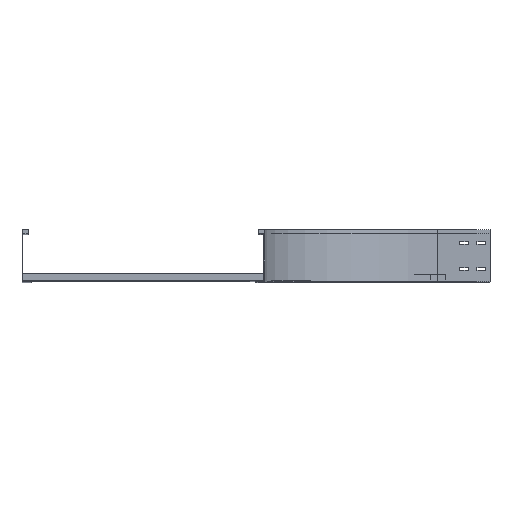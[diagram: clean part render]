
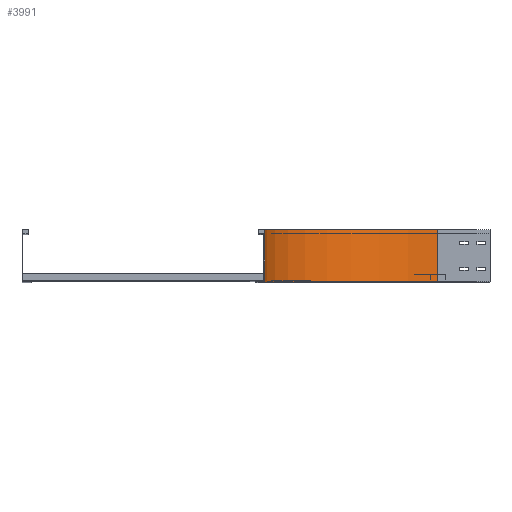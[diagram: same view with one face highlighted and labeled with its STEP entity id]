
A CAD part, top view. The second image highlights one B-rep face of the part: STEP entity #3991.
In plain terms, the highlighted cylindrical face has radius 500 mm (diameter 1000 mm), a partial arc.
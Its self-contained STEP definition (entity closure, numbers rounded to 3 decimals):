
#43 = AXIS2_PLACEMENT_3D ( 'NONE', #3118, #422, #3637 ) ;
#50 = CARTESIAN_POINT ( 'NONE',  ( 500., 0., -150. ) ) ;
#376 = CYLINDRICAL_SURFACE ( 'NONE', #1802, 500. ) ;
#422 = DIRECTION ( 'NONE',  ( 0., -1., 0. ) ) ;
#682 = VECTOR ( 'NONE', #3684, 1000. ) ;
#710 = EDGE_LOOP ( 'NONE', ( #3591, #1821, #894, #3322 ) ) ;
#760 = CARTESIAN_POINT ( 'NONE',  ( 500., 0., -650. ) ) ;
#894 = ORIENTED_EDGE ( 'NONE', *, *, #3331, .T. ) ;
#947 = VERTEX_POINT ( 'NONE', #760 ) ;
#1067 = FACE_OUTER_BOUND ( 'NONE', #710, .T. ) ;
#1183 = AXIS2_PLACEMENT_3D ( 'NONE', #4152, #2855, #1512 ) ;
#1364 = CARTESIAN_POINT ( 'NONE',  ( 0., 0., -150. ) ) ;
#1388 = LINE ( 'NONE', #1364, #682 ) ;
#1512 = DIRECTION ( 'NONE',  ( -1., 0., 0. ) ) ;
#1750 = CARTESIAN_POINT ( 'NONE',  ( 0., 150., -150. ) ) ;
#1802 = AXIS2_PLACEMENT_3D ( 'NONE', #50, #3002, #2365 ) ;
#1821 = ORIENTED_EDGE ( 'NONE', *, *, #4013, .F. ) ;
#1858 = VERTEX_POINT ( 'NONE', #3763 ) ;
#2145 = VERTEX_POINT ( 'NONE', #1750 ) ;
#2287 = CIRCLE ( 'NONE', #1183, 500. ) ;
#2365 = DIRECTION ( 'NONE',  ( 0., 0., -1. ) ) ;
#2521 = EDGE_CURVE ( 'NONE', #2145, #1858, #4274, .T. ) ;
#2544 = DIRECTION ( 'NONE',  ( 0., 1., 0. ) ) ;
#2566 = LINE ( 'NONE', #2846, #3371 ) ;
#2717 = EDGE_CURVE ( 'NONE', #947, #1858, #2566, .T. ) ;
#2846 = CARTESIAN_POINT ( 'NONE',  ( 500., 0., -650. ) ) ;
#2855 = DIRECTION ( 'NONE',  ( 0., -1., 0. ) ) ;
#3002 = DIRECTION ( 'NONE',  ( 0., -1., 0. ) ) ;
#3037 = CARTESIAN_POINT ( 'NONE',  ( 0., 0., -150. ) ) ;
#3118 = CARTESIAN_POINT ( 'NONE',  ( 500., 150., -150. ) ) ;
#3255 = VERTEX_POINT ( 'NONE', #3037 ) ;
#3322 = ORIENTED_EDGE ( 'NONE', *, *, #2717, .T. ) ;
#3331 = EDGE_CURVE ( 'NONE', #3255, #947, #2287, .T. ) ;
#3371 = VECTOR ( 'NONE', #2544, 1000. ) ;
#3591 = ORIENTED_EDGE ( 'NONE', *, *, #2521, .F. ) ;
#3637 = DIRECTION ( 'NONE',  ( -1., 0., 0. ) ) ;
#3684 = DIRECTION ( 'NONE',  ( 0., 1., 0. ) ) ;
#3763 = CARTESIAN_POINT ( 'NONE',  ( 500., 150., -650. ) ) ;
#3991 = ADVANCED_FACE ( 'NONE', ( #1067 ), #376, .F. ) ;
#4013 = EDGE_CURVE ( 'NONE', #3255, #2145, #1388, .T. ) ;
#4152 = CARTESIAN_POINT ( 'NONE',  ( 500., 0., -150. ) ) ;
#4274 = CIRCLE ( 'NONE', #43, 500. ) ;
